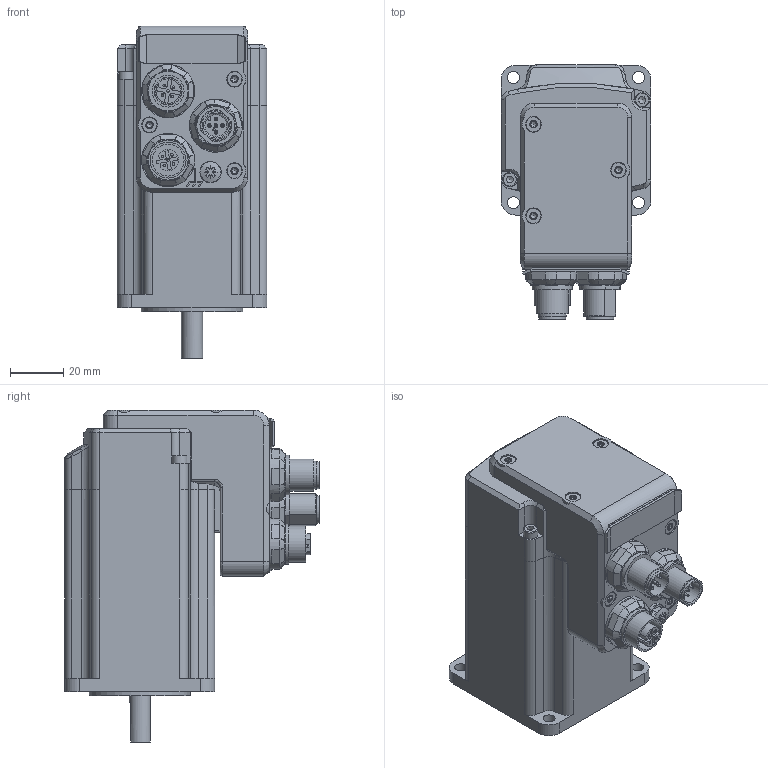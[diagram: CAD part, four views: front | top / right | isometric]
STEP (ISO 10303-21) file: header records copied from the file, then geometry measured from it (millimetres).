
FILE_DESCRIPTION(/* description */ (''),/* implementation_level */ '2;1');
FILE_NAME(/* name */ 'C:\Users\mzabek\Desktop\PSD422-8V-CA.stp',/* time_stamp */ '2018-07-03T17:59:08+02:00',/* author */ ('mzabek'),/* organization */ (''),/* preprocessor_version */ 'ST-DEVELOPER v17',/* originating_system */ 'Autodesk Inventor 2018',/* authorisation */ '');
FILE_SCHEMA (('AUTOMOTIVE_DESIGN { 1 0 10303 214 3 1 1 }'));
Length unit declared in the file: millimetre
Products named in the file (1): ENG-001181
Bounding box: 56.4 x 95.7 x 124.99 mm (x, y, z)
Volume: 351455 mm3; surface area: 38291.9 mm2
Topology: 4 solids, 4 shells, 853 faces, 2296 edges, 1454 vertices
Faces by surface type: plane 389, cylinder 245, cone 98, bspline 56, sphere 43, torus 22
Full cylindrical faces by diameter (mm): 0.6 x3, 0.8 x5, 1 x13, 1.4 x4, 4.5 x4, 5.5 x2, 5.6 x6, 6 x6, 8 x2, 8.3 x1, 9.2 x1, 10.2 x1, 10.4 x1, 10.5 x1, 12 x2, 13.5 x1, 15 x2, 20 x3, 38.1 x1
Entity records: 29731 total; most frequent: CARTESIAN_POINT 8253, ORIENTED_EDGE 4492, DIRECTION 4180, EDGE_CURVE 2246, AXIS2_PLACEMENT_3D 1608, VERTEX_POINT 1454, LINE 964, VECTOR 964
